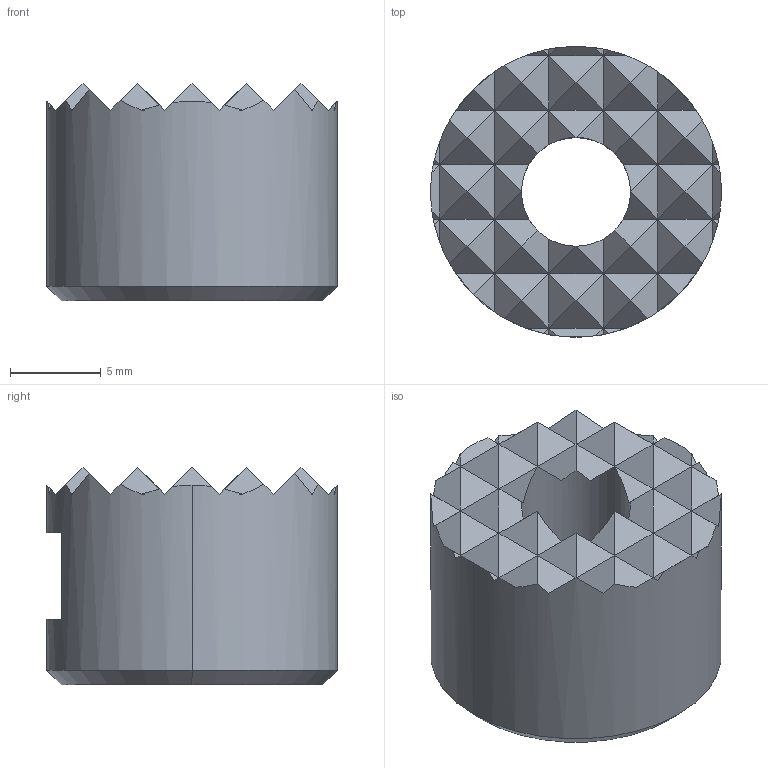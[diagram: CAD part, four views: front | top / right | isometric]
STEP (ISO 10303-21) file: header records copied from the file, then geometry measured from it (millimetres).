
FILE_DESCRIPTION (( 'STEP AP203' ), '1' );
FILE_NAME ('hs-162.STEP', '2021-10-26T01:16:38', ( '' ), ( '' ), 'SwSTEP 2.0', 'SolidWorks 2020', '' );
FILE_SCHEMA (( 'CONFIG_CONTROL_DESIGN' ));
Length unit declared in the file: millimetre
Products named in the file (1): hs-162
Bounding box: 16 x 16 x 12 mm (x, y, z)
Volume: 1864.2 mm3; surface area: 1149 mm2
Topology: 1 solids, 1 shells, 124 faces, 240 edges, 118 vertices
Faces by surface type: plane 116, cone 4, cylinder 4
Entity records: 3007 total; most frequent: CARTESIAN_POINT 693, ORIENTED_EDGE 480, DIRECTION 430, EDGE_CURVE 240, LINE 160, VECTOR 160, AXIS2_PLACEMENT_3D 135, EDGE_LOOP 126
